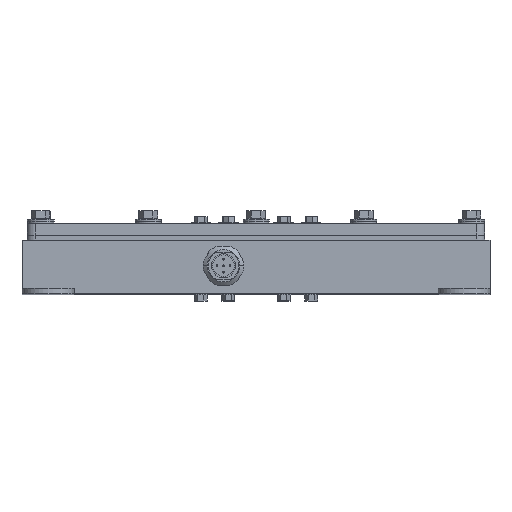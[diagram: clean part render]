
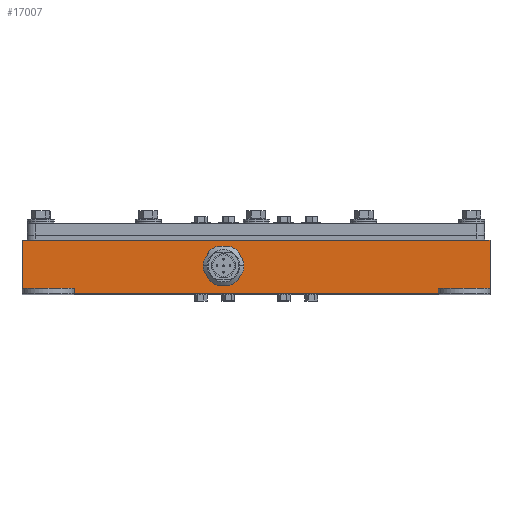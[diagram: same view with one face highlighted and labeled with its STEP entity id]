
A CAD part, top view. The second image highlights one B-rep face of the part: STEP entity #17007.
In plain terms, the highlighted planar face has unit normal (0, 0, 1).
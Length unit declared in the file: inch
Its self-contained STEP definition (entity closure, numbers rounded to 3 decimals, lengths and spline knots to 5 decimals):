
#15501 = DIRECTION ( 'NONE',  ( 1., 0., 0. ) ) ;
#15502 = DIRECTION ( 'NONE',  ( 0., 0., 1. ) ) ;
#15503 = CARTESIAN_POINT ( 'NONE',  ( 3.875, -0.49425, 0. ) ) ;
#15504 = AXIS2_PLACEMENT_3D ( 'NONE', #15503, #15502, #15501 ) ;
#15506 = CARTESIAN_POINT ( 'NONE',  ( 4.00845, -0.22425, 0. ) ) ;
#15507 = CIRCLE ( 'NONE', #15504, 0.30118 ) ;
#15555 = CARTESIAN_POINT ( 'NONE',  ( 4.17618, -0.49425, 0. ) ) ;
#15909 = DIRECTION ( 'NONE',  ( 1., 0., 0. ) ) ;
#15910 = VECTOR ( 'NONE', #15909, 39.37008 ) ;
#15911 = CARTESIAN_POINT ( 'NONE',  ( 9., 0., 0. ) ) ;
#15916 = LINE ( 'NONE', #15932, #15910 ) ;
#15917 = CIRCLE ( 'NONE', #15918, 0.30118 ) ;
#15918 = AXIS2_PLACEMENT_3D ( 'NONE', #15961, #15960, #15959 ) ;
#15921 = CARTESIAN_POINT ( 'NONE',  ( 4.00845, -0.76425, 0. ) ) ;
#15927 = FACE_OUTER_BOUND ( 'NONE', #16999, .T. ) ;
#15928 = CARTESIAN_POINT ( 'NONE',  ( 3.74155, -0.76425, 0. ) ) ;
#15932 = CARTESIAN_POINT ( 'NONE',  ( 1.78049, -0.22425, 0. ) ) ;
#15935 = CARTESIAN_POINT ( 'NONE',  ( 3.74155, -0.22425, 0. ) ) ;
#15950 = DIRECTION ( 'NONE',  ( 1., 0., 0. ) ) ;
#15951 = DIRECTION ( 'NONE',  ( 0., 0., 1. ) ) ;
#15952 = CARTESIAN_POINT ( 'NONE',  ( 0., -1.031, 0. ) ) ;
#15953 = AXIS2_PLACEMENT_3D ( 'NONE', #15952, #15951, #15950 ) ;
#15959 = DIRECTION ( 'NONE',  ( 1., 0., 0. ) ) ;
#15960 = DIRECTION ( 'NONE',  ( 0., 0., 1. ) ) ;
#15961 = CARTESIAN_POINT ( 'NONE',  ( 3.875, -0.49425, 0. ) ) ;
#15962 = PLANE ( 'NONE',  #15953 ) ;
#15963 = FACE_BOUND ( 'NONE', #17013, .T. ) ;
#15972 = CARTESIAN_POINT ( 'NONE',  ( 0., 0., 0. ) ) ;
#15984 = CARTESIAN_POINT ( 'NONE',  ( -6.56043, -0.926, 0. ) ) ;
#15985 = CARTESIAN_POINT ( 'NONE',  ( 1., -0.926, 0. ) ) ;
#15994 = CARTESIAN_POINT ( 'NONE',  ( 9., -0.926, 0. ) ) ;
#15995 = CARTESIAN_POINT ( 'NONE',  ( 1.78049, -0.76425, 0. ) ) ;
#15996 = DIRECTION ( 'NONE',  ( 1., 0., 0. ) ) ;
#15997 = DIRECTION ( 'NONE',  ( 0., 0., 1. ) ) ;
#15998 = CARTESIAN_POINT ( 'NONE',  ( -6.56043, -0.926, 0. ) ) ;
#15999 = DIRECTION ( 'NONE',  ( 0., 1., 0. ) ) ;
#16000 = VECTOR ( 'NONE', #15999, 39.37008 ) ;
#16001 = CARTESIAN_POINT ( 'NONE',  ( 0., -1.031, 0. ) ) ;
#16002 = LINE ( 'NONE', #16001, #16000 ) ;
#16003 = VECTOR ( 'NONE', #16058, 39.37008 ) ;
#16004 = CARTESIAN_POINT ( 'NONE',  ( 0., -1.031, 0. ) ) ;
#16005 = LINE ( 'NONE', #16004, #16003 ) ;
#16006 = DIRECTION ( 'NONE',  ( 0., -1., 0. ) ) ;
#16007 = VECTOR ( 'NONE', #16006, 39.37008 ) ;
#16008 = LINE ( 'NONE', #16015, #16007 ) ;
#16009 = AXIS2_PLACEMENT_3D ( 'NONE', #16011, #15997, #15996 ) ;
#16010 = CIRCLE ( 'NONE', #16009, 0.30118 ) ;
#16011 = CARTESIAN_POINT ( 'NONE',  ( 3.875, -0.49425, 0. ) ) ;
#16012 = DIRECTION ( 'NONE',  ( 1., 0., 0. ) ) ;
#16013 = VECTOR ( 'NONE', #16012, 39.37008 ) ;
#16014 = LINE ( 'NONE', #16021, #16013 ) ;
#16015 = CARTESIAN_POINT ( 'NONE',  ( 1., -0.926, 0. ) ) ;
#16017 = DIRECTION ( 'NONE',  ( 0., 1., 0. ) ) ;
#16018 = VECTOR ( 'NONE', #16017, 39.37008 ) ;
#16019 = CARTESIAN_POINT ( 'NONE',  ( 9., -1.031, 0. ) ) ;
#16020 = LINE ( 'NONE', #16019, #16018 ) ;
#16021 = CARTESIAN_POINT ( 'NONE',  ( 0., 0., 0. ) ) ;
#16022 = DIRECTION ( 'NONE',  ( -1., 0., 0. ) ) ;
#16023 = VECTOR ( 'NONE', #16022, 39.37008 ) ;
#16024 = LINE ( 'NONE', #15984, #16023 ) ;
#16025 = CARTESIAN_POINT ( 'NONE',  ( 0., -0.926, 0. ) ) ;
#16042 = DIRECTION ( 'NONE',  ( 0., -1., 0. ) ) ;
#16043 = VECTOR ( 'NONE', #16042, 39.37008 ) ;
#16044 = CARTESIAN_POINT ( 'NONE',  ( 8., -0.926, 0. ) ) ;
#16046 = LINE ( 'NONE', #16044, #16043 ) ;
#16047 = VECTOR ( 'NONE', #16051, 39.37008 ) ;
#16048 = LINE ( 'NONE', #15998, #16047 ) ;
#16050 = CARTESIAN_POINT ( 'NONE',  ( 8., -0.926, 0. ) ) ;
#16051 = DIRECTION ( 'NONE',  ( 1., 0., 0. ) ) ;
#16052 = DIRECTION ( 'NONE',  ( 1., 0., 0. ) ) ;
#16053 = VECTOR ( 'NONE', #16052, 39.37008 ) ;
#16054 = LINE ( 'NONE', #15995, #16053 ) ;
#16055 = CARTESIAN_POINT ( 'NONE',  ( 8., -1.031, 0. ) ) ;
#16056 = CARTESIAN_POINT ( 'NONE',  ( 1., -1.031, 0. ) ) ;
#16058 = DIRECTION ( 'NONE',  ( 1., 0., 0. ) ) ;
#16803 = EDGE_CURVE ( 'NONE', #16813, #16807, #15507, .T. ) ;
#16807 = VERTEX_POINT ( 'NONE', #15506 ) ;
#16813 = VERTEX_POINT ( 'NONE', #15555 ) ;
#16995 = ORIENTED_EDGE ( 'NONE', *, *, #17058, .T. ) ;
#16998 = VERTEX_POINT ( 'NONE', #15921 ) ;
#16999 = EDGE_LOOP ( 'NONE', ( #16995, #17069, #17046, #17049, #17053, #17032, #17035, #17055 ) ) ;
#17001 = EDGE_CURVE ( 'NONE', #17023, #16807, #15916, .T. ) ;
#17003 = VERTEX_POINT ( 'NONE', #15928 ) ;
#17004 = VERTEX_POINT ( 'NONE', #15911 ) ;
#17006 = EDGE_CURVE ( 'NONE', #17023, #17003, #15917, .T. ) ;
#17007 = ADVANCED_FACE ( 'NONE', ( #15963, #15927 ), #15962, .T. ) ;
#17008 = ORIENTED_EDGE ( 'NONE', *, *, #17001, .T. ) ;
#17013 = EDGE_LOOP ( 'NONE', ( #17056, #17008, #17059, #17062, #17060 ) ) ;
#17023 = VERTEX_POINT ( 'NONE', #15935 ) ;
#17031 = VERTEX_POINT ( 'NONE', #15985 ) ;
#17032 = ORIENTED_EDGE ( 'NONE', *, *, #17054, .F. ) ;
#17035 = ORIENTED_EDGE ( 'NONE', *, *, #17066, .T. ) ;
#17042 = VERTEX_POINT ( 'NONE', #15972 ) ;
#17044 = EDGE_CURVE ( 'NONE', #17061, #17068, #16024, .T. ) ;
#17045 = VERTEX_POINT ( 'NONE', #16025 ) ;
#17046 = ORIENTED_EDGE ( 'NONE', *, *, #17044, .F. ) ;
#17047 = EDGE_CURVE ( 'NONE', #17061, #17004, #16020, .T. ) ;
#17049 = ORIENTED_EDGE ( 'NONE', *, *, #17047, .T. ) ;
#17050 = EDGE_CURVE ( 'NONE', #17042, #17004, #16014, .T. ) ;
#17052 = EDGE_CURVE ( 'NONE', #17031, #17064, #16008, .T. ) ;
#17053 = ORIENTED_EDGE ( 'NONE', *, *, #17050, .F. ) ;
#17054 = EDGE_CURVE ( 'NONE', #17045, #17042, #16002, .T. ) ;
#17055 = ORIENTED_EDGE ( 'NONE', *, *, #17052, .T. ) ;
#17056 = ORIENTED_EDGE ( 'NONE', *, *, #17006, .F. ) ;
#17057 = EDGE_CURVE ( 'NONE', #16998, #16813, #16010, .T. ) ;
#17058 = EDGE_CURVE ( 'NONE', #17064, #17065, #16005, .T. ) ;
#17059 = ORIENTED_EDGE ( 'NONE', *, *, #16803, .F. ) ;
#17060 = ORIENTED_EDGE ( 'NONE', *, *, #17063, .F. ) ;
#17061 = VERTEX_POINT ( 'NONE', #15994 ) ;
#17062 = ORIENTED_EDGE ( 'NONE', *, *, #17057, .F. ) ;
#17063 = EDGE_CURVE ( 'NONE', #17003, #16998, #16054, .T. ) ;
#17064 = VERTEX_POINT ( 'NONE', #16056 ) ;
#17065 = VERTEX_POINT ( 'NONE', #16055 ) ;
#17066 = EDGE_CURVE ( 'NONE', #17045, #17031, #16048, .T. ) ;
#17067 = EDGE_CURVE ( 'NONE', #17068, #17065, #16046, .T. ) ;
#17068 = VERTEX_POINT ( 'NONE', #16050 ) ;
#17069 = ORIENTED_EDGE ( 'NONE', *, *, #17067, .F. ) ;
